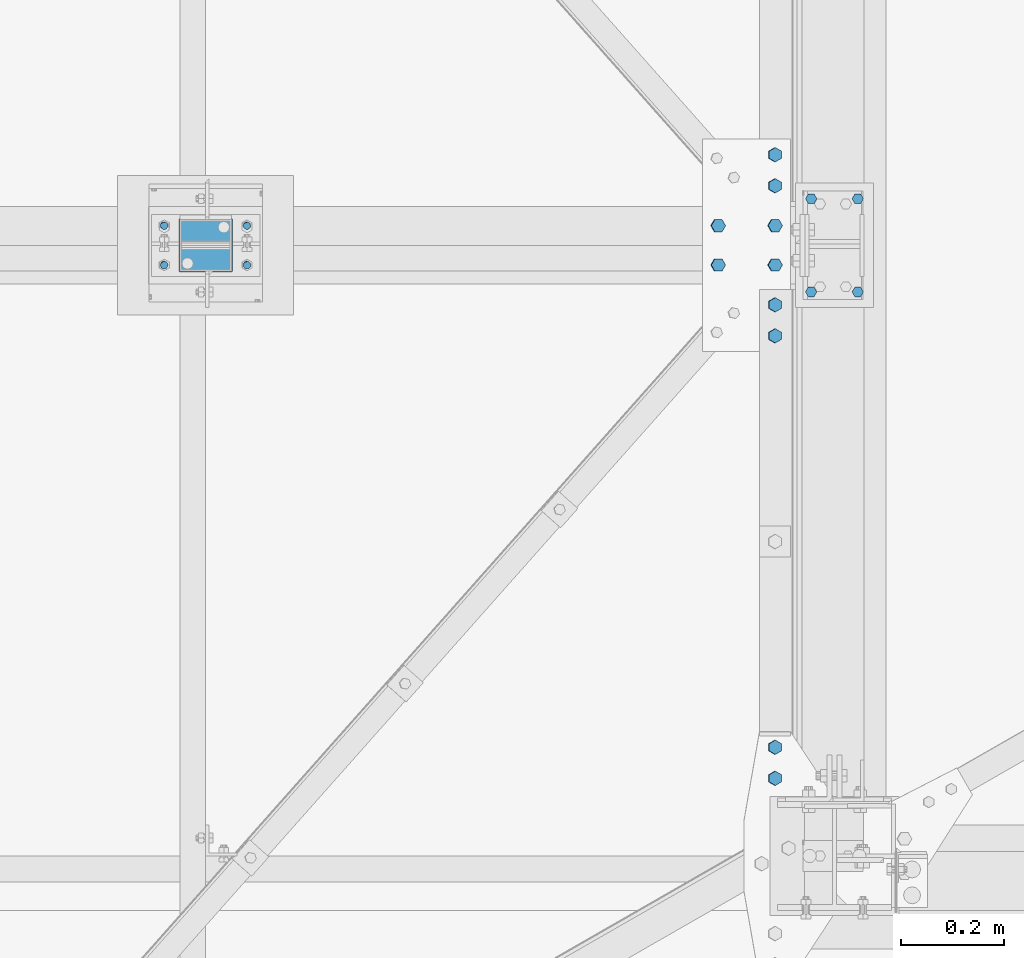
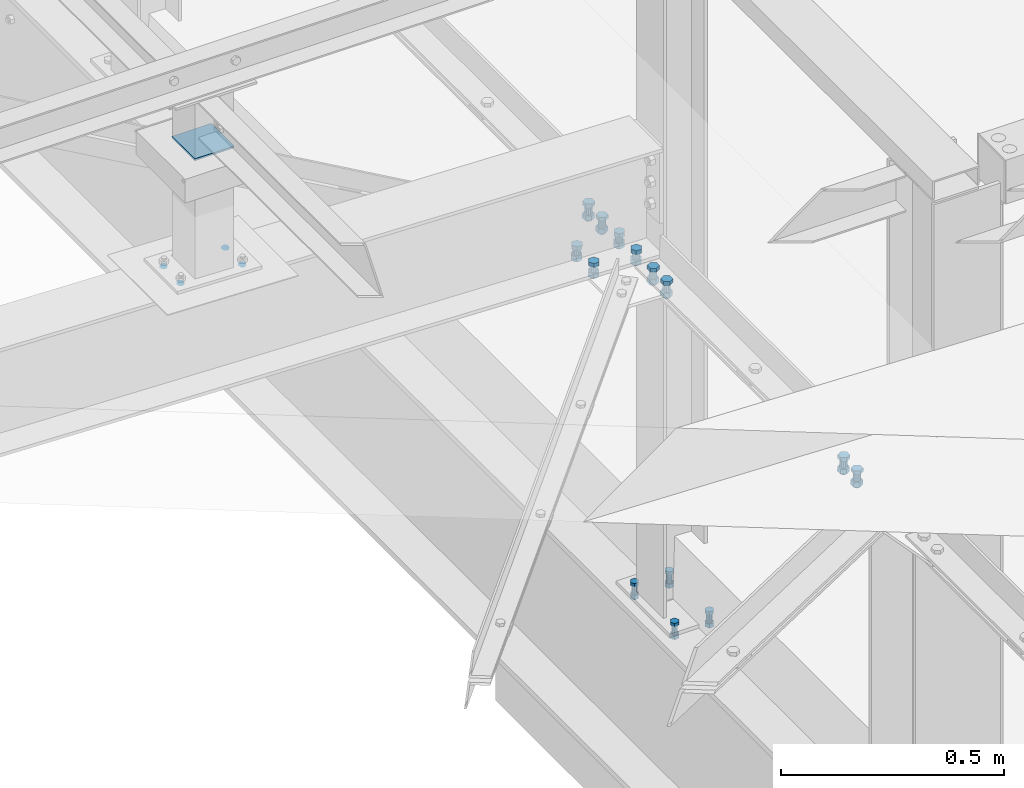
# One storey, part 358 of 3134: 7 mechanical fasteners, 6 elements without a shape of their own.
"""IFC2X3 building model written with IfcOpenShell, lengths in millimetres."""

from ifc_helpers import new_model, si_unit, frame, origin_with_axes, place, context, subcontext, project, spatial, faceted_brep, source, transform, mapped, material, type_object, element, aggregate, save


model = new_model("IFC2X3")

# Units and contexts
model_context = context("Model", 3, precision=1e-05, world=origin_with_axes())
body_context = subcontext(model_context, "Body", "Model", "MODEL_VIEW")
ifc_project = project(units=[si_unit("LENGTHUNIT", "METRE", prefix="MILLI"), si_unit("AREAUNIT", "SQUARE_METRE"), si_unit("VOLUMEUNIT", "CUBIC_METRE"), si_unit("MASSUNIT", "GRAM", prefix="KILO"), si_unit("TIMEUNIT", "SECOND"), si_unit("PLANEANGLEUNIT", "RADIAN"), si_unit("SOLIDANGLEUNIT", "STERADIAN"), si_unit("THERMODYNAMICTEMPERATUREUNIT", "DEGREE_CELSIUS"), si_unit("LUMINOUSINTENSITYUNIT", "LUMEN")], contexts=[model_context])

# Site, building, storey
site_placement = place(None, origin_with_axes())
site = spatial("IfcSite", under=ifc_project, at=site_placement, CompositionType="ELEMENT")
building_placement = place(site_placement, origin_with_axes())
building = spatial("IfcBuilding", under=site, at=building_placement, Name="Undefined", CompositionType="ELEMENT")
storey_placement = place(building_placement, origin_with_axes())
storey = spatial("IfcBuildingStorey", under=building, at=storey_placement, Name="Undefined", CompositionType="ELEMENT", Elevation=0.0)

# Assembly, mechanical fastener
assembly_1_placement = place(storey_placement, origin_with_axes())
assembly_1 = element("IfcElementAssembly", 1, at=assembly_1_placement, inside=storey, Name="300", AssemblyPlace="NOTDEFINED", PredefinedType="RIGID_FRAME")
ifc_material_1 = material(Name="8.8")
mechanical_fastener_type = type_object("IfcMechanicalFastenerType", Name="Bolt assembly")
shared_shape_1 = source(origin_with_axes(), body_context, "Body", "Brep", [
    faceted_brep([(13.856406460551, -23.1999997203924, 0.0), (6.92820323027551, -23.1999997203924, 12.0), (-6.92820323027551, -23.1999997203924, 12.0), (-13.856406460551, -23.1999997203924, 1.69692038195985e-15), (-6.92820323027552, -23.1999997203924, -12.0), (6.9282032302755, -23.1999997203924, -12.0), (6.9282032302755, -13.1999997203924, -12.0), (-6.92820323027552, -13.1999997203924, -12.0), (-13.856406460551, -13.1999997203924, 1.69692038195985e-15), (-6.92820323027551, -13.1999997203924, 12.0), (6.92820323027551, -13.1999997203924, 12.0), (13.856406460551, -13.1999997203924, 0.0), (8.0, -13.1999997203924, 0.0), (6.92820323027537, -13.1999997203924, 4.00000000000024), (3.99999999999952, -13.1999997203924, 6.92820323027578), (-8.29068785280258e-13, -13.1999997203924, 8.0), (-4.00000000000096, -13.1999997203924, 6.92820323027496), (-6.9282032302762, -13.1999997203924, 3.99999999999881), (-8.0, -13.1999997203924, -1.65813757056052e-12), (-6.92820323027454, -13.1999997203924, -4.00000000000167), (-3.99999999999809, -13.1999997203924, -6.92820323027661), (2.47832457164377e-12, -13.1999997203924, -8.0), (4.00000000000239, -13.1999997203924, -6.92820323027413), (6.92820323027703, -13.1999997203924, -3.99999999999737), (6.92820323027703, 21.8000002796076, -3.99999999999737), (4.00000000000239, 21.8000002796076, -6.92820323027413), (2.47832457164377e-12, 21.8000002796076, -8.0), (-3.99999999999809, 21.8000002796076, -6.92820323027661), (-6.92820323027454, 21.8000002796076, -4.00000000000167), (-8.0, 21.8000002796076, -1.65813757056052e-12), (-6.9282032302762, 21.8000002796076, 3.99999999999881), (-4.00000000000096, 21.8000002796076, 6.92820323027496), (-8.29068785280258e-13, 21.8000002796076, 8.0), (3.99999999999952, 21.8000002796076, 6.92820323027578), (6.92820323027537, 21.8000002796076, 4.00000000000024), (8.0, 21.8000002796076, 0.0), (13.856406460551, 3.99999999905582, 0.0), (6.92820323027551, 3.99999999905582, 12.0), (-6.92820323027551, 3.99999999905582, 12.0), (-13.856406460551, 3.99999999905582, 1.69692038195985e-15), (-6.92820323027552, 3.99999999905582, -12.0), (6.9282032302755, 3.99999999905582, -12.0), (6.9282032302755, 16.9999999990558, -12.0), (-6.92820323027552, 16.9999999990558, -12.0), (-13.856406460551, 16.9999999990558, 1.69692038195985e-15), (-6.92820323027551, 16.9999999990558, 12.0), (6.92820323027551, 16.9999999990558, 12.0), (13.856406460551, 16.9999999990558, 0.0)], [[[0, 1, 2, 3, 4, 5]], [[6, 7, 8, 9, 10, 11]], [[0, 11, 10, 1]], [[1, 10, 9, 2]], [[2, 9, 8, 3]], [[3, 8, 7, 4]], [[4, 7, 6, 5]], [[5, 6, 11, 0]], [[12, 13, 14, 15, 16, 17, 18, 19, 20, 21, 22, 23]], [[24, 25, 26, 27, 28, 29, 30, 31, 32, 33, 34, 35]], [[12, 35, 34, 13]], [[13, 34, 33, 14]], [[14, 33, 32, 15]], [[15, 32, 31, 16]], [[16, 31, 30, 17]], [[17, 30, 29, 18]], [[18, 29, 28, 19]], [[19, 28, 27, 20]], [[20, 27, 26, 21]], [[21, 26, 25, 22]], [[22, 25, 24, 23]], [[23, 24, 35, 12]], [[36, 37, 38, 39, 40, 41]], [[42, 43, 44, 45, 46, 47]], [[36, 47, 46, 37]], [[37, 46, 45, 38]], [[38, 45, 44, 39]], [[39, 44, 43, 40]], [[40, 43, 42, 41]], [[41, 42, 47, 36]]]),
    faceted_brep([(9.0, -4.10000000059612, 0.0), (7.79422863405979, -4.10000000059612, 4.50000000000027), (4.49999999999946, -4.10000000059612, 7.79422863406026), (-9.3270238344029e-13, -4.10000000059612, 9.0), (-4.50000000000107, -4.10000000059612, 7.79422863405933), (-7.79422863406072, -4.10000000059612, 4.49999999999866), (-9.0, -4.10000000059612, -1.86540476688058e-12), (-7.79422863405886, -4.10000000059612, -4.50000000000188), (-4.49999999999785, -4.10000000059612, -7.79422863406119), (2.78811514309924e-12, -4.10000000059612, -9.0), (4.50000000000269, -4.10000000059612, -7.7942286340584), (7.79422863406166, -4.10000000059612, -4.49999999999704), (7.79422863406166, 4.00000375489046, -4.49999999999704), (4.50000000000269, 4.00000375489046, -7.7942286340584), (2.78811514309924e-12, 4.00000375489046, -9.0), (-4.49999999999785, 4.00000375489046, -7.79422863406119), (-7.79422863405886, 4.00000375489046, -4.50000000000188), (-9.0, 4.00000375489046, -1.86540476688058e-12), (-7.79422863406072, 4.00000375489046, 4.49999999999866), (-4.50000000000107, 4.00000375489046, 7.79422863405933), (-9.3270238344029e-13, 4.00000375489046, 9.0), (4.49999999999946, 4.00000375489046, 7.79422863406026), (7.79422863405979, 4.00000375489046, 4.50000000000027), (9.0, 4.00000375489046, 0.0), (9.0, -13.0999997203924, 0.0), (7.79422863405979, -13.0999997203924, 4.50000000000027), (4.49999999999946, -13.0999997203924, 7.79422863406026), (-9.3270238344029e-13, -13.0999997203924, 9.0), (-4.50000000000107, -13.0999997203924, 7.79422863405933), (-7.79422863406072, -13.0999997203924, 4.49999999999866), (-9.0, -13.0999997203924, -1.86540476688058e-12), (-7.79422863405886, -13.0999997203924, -4.50000000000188), (-4.49999999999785, -13.0999997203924, -7.79422863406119), (2.78811514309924e-12, -13.0999997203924, -9.0), (4.50000000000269, -13.0999997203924, -7.7942286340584), (7.79422863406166, -13.0999997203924, -4.49999999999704), (7.79422863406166, -3.9, -4.49999999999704), (4.50000000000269, -3.9, -7.7942286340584), (2.78811514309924e-12, -3.9, -9.0), (-4.49999999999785, -3.9, -7.79422863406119), (-7.79422863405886, -3.9, -4.50000000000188), (-9.0, -3.9, -1.86540476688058e-12), (-7.79422863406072, -3.9, 4.49999999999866), (-4.50000000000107, -3.9, 7.79422863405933), (-9.3270238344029e-13, -3.9, 9.0), (4.49999999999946, -3.9, 7.79422863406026), (7.79422863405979, -3.9, 4.50000000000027), (9.0, -3.9, 0.0)], [[[0, 1, 2, 3, 4, 5, 6, 7, 8, 9, 10, 11]], [[12, 13, 14, 15, 16, 17, 18, 19, 20, 21, 22, 23]], [[0, 23, 22, 1]], [[1, 22, 21, 2]], [[2, 21, 20, 3]], [[3, 20, 19, 4]], [[4, 19, 18, 5]], [[5, 18, 17, 6]], [[6, 17, 16, 7]], [[7, 16, 15, 8]], [[8, 15, 14, 9]], [[9, 14, 13, 10]], [[10, 13, 12, 11]], [[11, 12, 23, 0]], [[24, 25, 26, 27, 28, 29, 30, 31, 32, 33, 34, 35]], [[36, 37, 38, 39, 40, 41, 42, 43, 44, 45, 46, 47]], [[24, 47, 46, 25]], [[25, 46, 45, 26]], [[26, 45, 44, 27]], [[27, 44, 43, 28]], [[28, 43, 42, 29]], [[29, 42, 41, 30]], [[30, 41, 40, 31]], [[31, 40, 39, 32]], [[32, 39, 38, 33]], [[33, 38, 37, 34]], [[34, 37, 36, 35]], [[35, 36, 47, 24]]]),
])
mechanical_fastener_1_placement = place(assembly_1_placement, frame((71700.0552172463, 14729.9999999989, 5010.20374993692), z_axis=(0.0, -1.0, 0.0), x_axis=(-0.999519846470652, 0.0, 0.0309851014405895)))
mechanical_fastener_1 = element("IfcMechanicalFastener", 2, at=mechanical_fastener_1_placement, type_object=mechanical_fastener_type, material=ifc_material_1, Name="Bolt assembly", NominalDiameter=16.0, NominalLength=35.0, context=body_context, shape_type="MappedRepresentation", body=[
    mapped(shared_shape_1, transform((0.0, 0.0, -38.0))),
    mapped(shared_shape_1, transform((110.000000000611, 4.58385329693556e-10, -38.0))),
    mapped(shared_shape_1, transform((0.0, 0.0, 38.0))),
    mapped(shared_shape_1, transform((110.000000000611, 4.58385329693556e-10, 38.0))),
])
aggregate(assembly_1, [mechanical_fastener_1])

assembly_2_placement = place(storey_placement, origin_with_axes())
assembly_2 = element("IfcElementAssembly", 3, at=assembly_2_placement, inside=storey, AssemblyPlace="NOTDEFINED", PredefinedType="RIGID_FRAME")
shared_shape_2 = source(origin_with_axes(), body_context, "Body", "Brep", [
    faceted_brep([(7.0, 13.0000253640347, 0.0), (6.06217782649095, 13.0000253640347, 3.50000000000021), (3.49999999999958, 13.0000253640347, 6.06217782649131), (-7.25435187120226e-13, 13.0000253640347, 7.0), (-3.50000000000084, 13.0000253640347, 6.06217782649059), (-6.06217782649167, 13.0000253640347, 3.49999999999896), (-7.0, 13.0000253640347, -1.45087037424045e-12), (-6.06217782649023, 13.0000253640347, -3.50000000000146), (-3.49999999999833, 13.0000253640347, -6.06217782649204), (2.1685340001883e-12, 13.0000253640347, -7.0), (3.50000000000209, 13.0000253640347, -6.06217782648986), (6.0621778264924, 13.0000253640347, -3.4999999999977), (6.0621778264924, 15.0999999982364, -3.4999999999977), (3.50000000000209, 15.0999999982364, -6.06217782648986), (2.1685340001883e-12, 15.0999999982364, -7.0), (-3.49999999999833, 15.0999999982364, -6.06217782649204), (-6.06217782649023, 15.0999999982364, -3.50000000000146), (-7.0, 15.0999999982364, -1.45087037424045e-12), (-6.06217782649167, 15.0999999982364, 3.49999999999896), (-3.50000000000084, 15.0999999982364, 6.06217782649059), (-7.25435187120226e-13, 15.0999999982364, 7.0), (3.49999999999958, 15.0999999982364, 6.06217782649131), (6.06217782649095, 15.0999999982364, 3.50000000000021), (7.0, 15.0999999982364, 0.0)], [[[0, 1, 2, 3, 4, 5, 6, 7, 8, 9, 10, 11]], [[12, 13, 14, 15, 16, 17, 18, 19, 20, 21, 22, 23]], [[0, 23, 22, 1]], [[1, 22, 21, 2]], [[2, 21, 20, 3]], [[3, 20, 19, 4]], [[4, 19, 18, 5]], [[5, 18, 17, 6]], [[6, 17, 16, 7]], [[7, 16, 15, 8]], [[8, 15, 14, 9]], [[9, 14, 13, 10]], [[10, 13, 12, 11]], [[11, 12, 23, 0]]]),
])
mechanical_fastener_2_placement = place(assembly_2_placement, frame((70599.3451187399, 14768.0, 5332.4572055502), z_axis=(-0.99951962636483, 0.0, 0.0309922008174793), x_axis=(0.0, -1.0, 0.0)))
mechanical_fastener_2 = element("IfcMechanicalFastener", 4, at=mechanical_fastener_2_placement, type_object=mechanical_fastener_type, material=ifc_material_1, Name="Bolt assembly", NominalDiameter=12.0, NominalLength=2.0, context=body_context, shape_type="MappedRepresentation", body=[
    mapped(shared_shape_2, transform((0.0, -5.32963895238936e-10, -79.9999999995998))),
    mapped(shared_shape_2, transform((76.0, -5.32963895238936e-10, -79.9999999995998))),
    mapped(shared_shape_2, transform((0.0, 5.3114490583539e-10, 79.9999999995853))),
    mapped(shared_shape_2, transform((76.0, 5.3114490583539e-10, 79.9999999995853))),
])
aggregate(assembly_2, [mechanical_fastener_2])

assembly_3_placement = place(storey_placement, origin_with_axes())
assembly_3 = element("IfcElementAssembly", 5, at=assembly_3_placement, inside=storey, AssemblyPlace="NOTDEFINED", PredefinedType="RIGID_FRAME")
ifc_material_2 = material(Name="6.8")
shared_shape_3 = source(origin_with_axes(), body_context, "Body", "Brep", [
    faceted_brep([(51.5, 1.36424205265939e-12, 50.0), (51.3858192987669, 1.36424205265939e-12, 50.5740251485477), (51.0606601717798, 1.36424205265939e-12, 51.0606601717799), (50.5740251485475, 1.36424205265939e-12, 51.385819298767), (-50.0000000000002, 1.36424205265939e-12, 51.5), (-50.7500000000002, 1.36424205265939e-12, 51.2990381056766), (-51.2990381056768, 1.36424205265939e-12, 50.7499999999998), (-51.5, 1.36424205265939e-12, 49.9999999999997), (-51.5, 1.36424205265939e-12, -50.0000000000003), (-51.2990381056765, 1.36424205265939e-12, -50.7500000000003), (-50.7499999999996, 1.36424205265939e-12, -51.2990381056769), (-49.9999999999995, 1.36424205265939e-12, -51.5), (50.0000000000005, 1.36424205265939e-12, -51.5), (50.7500000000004, 1.36424205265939e-12, -51.2990381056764), (51.2990381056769, 1.36424205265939e-12, -50.7499999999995), (51.5, 1.36424205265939e-12, -49.9999999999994), (51.5, 5.10000000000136, -49.9999999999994), (51.2990381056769, 5.10000000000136, -50.7499999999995), (50.7500000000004, 5.10000000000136, -51.2990381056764), (50.0000000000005, 5.10000000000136, -51.5), (-49.9999999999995, 5.10000000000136, -51.5), (-50.7499999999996, 5.10000000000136, -51.2990381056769), (-51.2990381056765, 5.10000000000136, -50.7500000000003), (-51.5, 5.10000000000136, -50.0000000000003), (-51.5, 5.10000000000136, 49.9999999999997), (-51.2990381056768, 5.10000000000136, 50.7499999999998), (-50.7500000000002, 5.10000000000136, 51.2990381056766), (-50.0000000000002, 5.10000000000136, 51.5), (50.5740251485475, 5.10000000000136, 51.385819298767), (51.0606601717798, 5.10000000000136, 51.0606601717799), (51.3858192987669, 5.10000000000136, 50.5740251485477), (51.5, 5.10000000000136, 50.0)], [[[0, 1, 2, 3, 4, 5, 6, 7, 8, 9, 10, 11, 12, 13, 14, 15]], [[16, 17, 18, 19, 20, 21, 22, 23, 24, 25, 26, 27, 28, 29, 30, 31]], [[0, 31, 30, 1]], [[1, 30, 29, 2]], [[2, 29, 28, 3]], [[3, 28, 27, 4]], [[4, 27, 26, 5]], [[5, 26, 25, 6]], [[6, 25, 24, 7]], [[7, 24, 23, 8]], [[8, 23, 22, 9]], [[9, 22, 21, 10]], [[10, 21, 20, 11]], [[11, 20, 19, 12]], [[12, 19, 18, 13]], [[13, 18, 17, 14]], [[14, 17, 16, 15]], [[15, 16, 31, 0]]]),
])
mechanical_fastener_3_placement = place(assembly_3_placement, frame((70600.0, 14730.0, 5687.16), z_axis=(0.0, -1.0, 0.0), x_axis=(-1.0, 0.0, 0.0)))
mechanical_fastener_3 = element("IfcMechanicalFastener", 6, at=mechanical_fastener_3_placement, type_object=mechanical_fastener_type, material=ifc_material_2, Name="Bolt assembly", NominalDiameter=10.0, NominalLength=5.0, context=body_context, shape_type="MappedRepresentation", body=[
    mapped(shared_shape_3, transform((0.0, 0.0, 0.0))),
])
aggregate(assembly_3, [mechanical_fastener_3])

assembly_4_placement = place(storey_placement, origin_with_axes())
assembly_4 = element("IfcElementAssembly", 7, at=assembly_4_placement, inside=storey, Name="IPE500", AssemblyPlace="NOTDEFINED", PredefinedType="RIGID_FRAME")
shared_shape_4 = source(origin_with_axes(), body_context, "Body", "Brep", [
    faceted_brep([(10.9696551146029, -18.0, 0.0), (5.48482755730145, -18.0, 9.5), (-5.48482755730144, -18.0, 9.5), (-10.9696551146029, -18.0, 1.34339530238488e-15), (-5.48482755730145, -18.0, -9.5), (5.48482755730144, -18.0, -9.50000000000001), (5.48482755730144, -10.0, -9.50000000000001), (-5.48482755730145, -10.0, -9.5), (-10.9696551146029, -10.0, 1.34339530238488e-15), (-5.48482755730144, -10.0, 9.5), (5.48482755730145, -10.0, 9.5), (10.9696551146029, -10.0, 0.0), (6.0, -10.0, 0.0), (5.19615242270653, -10.0, 3.00000000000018), (2.99999999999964, -10.0, 5.19615242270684), (-6.21801588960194e-13, -10.0, 6.0), (-3.00000000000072, -10.0, 5.19615242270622), (-5.19615242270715, -10.0, 2.9999999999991), (-6.0, -10.0, -1.24360317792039e-12), (-5.19615242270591, -10.0, -3.00000000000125), (-2.99999999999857, -10.0, -5.19615242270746), (1.85874342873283e-12, -10.0, -6.0), (3.00000000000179, -10.0, -5.1961524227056), (5.19615242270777, -10.0, -2.99999999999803), (5.19615242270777, 30.0, -2.99999999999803), (3.00000000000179, 30.0, -5.1961524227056), (1.85874342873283e-12, 30.0, -6.0), (-2.99999999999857, 30.0, -5.19615242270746), (-5.19615242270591, 30.0, -3.00000000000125), (-6.0, 30.0, -1.24360317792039e-12), (-5.19615242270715, 30.0, 2.9999999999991), (-3.00000000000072, 30.0, 5.19615242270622), (-6.21801588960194e-13, 30.0, 6.0), (2.99999999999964, 30.0, 5.19615242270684), (5.19615242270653, 30.0, 3.00000000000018), (6.0, 30.0, 0.0), (10.9696551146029, 16.0, 0.0), (5.48482755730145, 16.0, 9.5), (-5.48482755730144, 16.0, 9.5), (-10.9696551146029, 16.0, 1.34339530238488e-15), (-5.48482755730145, 16.0, -9.5), (5.48482755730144, 16.0, -9.50000000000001), (5.48482755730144, 26.0000003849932, -9.50000000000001), (-5.48482755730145, 26.0000003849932, -9.5), (-10.9696551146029, 26.0000003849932, 1.34339530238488e-15), (-5.48482755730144, 26.0000003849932, 9.5), (5.48482755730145, 26.0000003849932, 9.5), (10.9696551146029, 26.0000003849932, 0.0)], [[[0, 1, 2, 3, 4, 5]], [[6, 7, 8, 9, 10, 11]], [[0, 11, 10, 1]], [[1, 10, 9, 2]], [[2, 9, 8, 3]], [[3, 8, 7, 4]], [[4, 7, 6, 5]], [[5, 6, 11, 0]], [[12, 13, 14, 15, 16, 17, 18, 19, 20, 21, 22, 23]], [[24, 25, 26, 27, 28, 29, 30, 31, 32, 33, 34, 35]], [[12, 35, 34, 13]], [[13, 34, 33, 14]], [[14, 33, 32, 15]], [[15, 32, 31, 16]], [[16, 31, 30, 17]], [[17, 30, 29, 18]], [[18, 29, 28, 19]], [[19, 28, 27, 20]], [[20, 27, 26, 21]], [[21, 26, 25, 22]], [[22, 25, 24, 23]], [[23, 24, 35, 12]], [[36, 37, 38, 39, 40, 41]], [[42, 43, 44, 45, 46, 47]], [[36, 47, 46, 37]], [[37, 46, 45, 38]], [[38, 45, 44, 39]], [[39, 44, 43, 40]], [[40, 43, 42, 41]], [[41, 42, 47, 36]]]),
    faceted_brep([(7.0, -9.89999913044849, 0.0), (6.06217782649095, -9.89999913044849, 3.50000000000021), (3.49999999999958, -9.89999913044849, 6.06217782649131), (-7.25435187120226e-13, -9.89999913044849, 7.0), (-3.50000000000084, -9.89999913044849, 6.06217782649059), (-6.06217782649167, -9.89999913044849, 3.49999999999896), (-7.0, -9.89999913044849, -1.45087037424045e-12), (-6.06217782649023, -9.89999913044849, -3.50000000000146), (-3.49999999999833, -9.89999913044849, -6.06217782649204), (2.1685340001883e-12, -9.89999913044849, -7.0), (3.50000000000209, -9.89999913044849, -6.06217782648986), (6.0621778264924, -9.89999913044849, -3.4999999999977), (6.0621778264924, 0.0999999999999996, -3.4999999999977), (3.50000000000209, 0.0999999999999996, -6.06217782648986), (2.1685340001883e-12, 0.0999999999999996, -7.0), (-3.49999999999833, 0.0999999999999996, -6.06217782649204), (-6.06217782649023, 0.0999999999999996, -3.50000000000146), (-7.0, 0.0999999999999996, -1.45087037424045e-12), (-6.06217782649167, 0.0999999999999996, 3.49999999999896), (-3.50000000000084, 0.0999999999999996, 6.06217782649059), (-7.25435187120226e-13, 0.0999999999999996, 7.0), (3.49999999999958, 0.0999999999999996, 6.06217782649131), (6.06217782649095, 0.0999999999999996, 3.50000000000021), (7.0, 0.0999999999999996, 0.0), (7.0, -0.1, 0.0), (6.06217782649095, -0.1, 3.50000000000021), (3.49999999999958, -0.1, 6.06217782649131), (-7.25435187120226e-13, -0.1, 7.0), (-3.50000000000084, -0.1, 6.06217782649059), (-6.06217782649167, -0.1, 3.49999999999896), (-7.0, -0.1, -1.45087037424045e-12), (-6.06217782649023, -0.1, -3.50000000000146), (-3.49999999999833, -0.1, -6.06217782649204), (2.1685340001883e-12, -0.1, -7.0), (3.50000000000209, -0.1, -6.06217782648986), (6.0621778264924, -0.1, -3.4999999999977), (6.0621778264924, 16.0000003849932, -3.4999999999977), (3.50000000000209, 16.0000003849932, -6.06217782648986), (2.1685340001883e-12, 16.0000003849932, -7.0), (-3.49999999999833, 16.0000003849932, -6.06217782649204), (-6.06217782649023, 16.0000003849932, -3.50000000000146), (-7.0, 16.0000003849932, -1.45087037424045e-12), (-6.06217782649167, 16.0000003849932, 3.49999999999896), (-3.50000000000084, 16.0000003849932, 6.06217782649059), (-7.25435187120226e-13, 16.0000003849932, 7.0), (3.49999999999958, 16.0000003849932, 6.06217782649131), (6.06217782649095, 16.0000003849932, 3.50000000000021), (7.0, 16.0000003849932, 0.0)], [[[0, 1, 2, 3, 4, 5, 6, 7, 8, 9, 10, 11]], [[12, 13, 14, 15, 16, 17, 18, 19, 20, 21, 22, 23]], [[0, 23, 22, 1]], [[1, 22, 21, 2]], [[2, 21, 20, 3]], [[3, 20, 19, 4]], [[4, 19, 18, 5]], [[5, 18, 17, 6]], [[6, 17, 16, 7]], [[7, 16, 15, 8]], [[8, 15, 14, 9]], [[9, 14, 13, 10]], [[10, 13, 12, 11]], [[11, 12, 23, 0]], [[24, 25, 26, 27, 28, 29, 30, 31, 32, 33, 34, 35]], [[36, 37, 38, 39, 40, 41, 42, 43, 44, 45, 46, 47]], [[24, 47, 46, 25]], [[25, 46, 45, 26]], [[26, 45, 44, 27]], [[27, 44, 43, 28]], [[28, 43, 42, 29]], [[29, 42, 41, 30]], [[30, 41, 40, 31]], [[31, 40, 39, 32]], [[32, 39, 38, 33]], [[33, 38, 37, 34]], [[34, 37, 36, 35]], [[35, 36, 47, 24]]]),
])
mechanical_fastener_4_placement = place(assembly_4_placement, frame((71770.0, 14729.9999999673, 4000.00000038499), z_axis=(0.0, 1.0, 0.0), x_axis=(1.0, 0.0, 0.0)))
mechanical_fastener_4 = element("IfcMechanicalFastener", 8, at=mechanical_fastener_4_placement, type_object=mechanical_fastener_type, material=ifc_material_1, Name="Bolt assembly", NominalDiameter=12.0, NominalLength=40.0, context=body_context, shape_type="MappedRepresentation", body=[
    mapped(shared_shape_4, transform((0.0, 0.0, -90.0))),
    mapped(shared_shape_4, transform((90.0, 0.0, -90.0))),
    mapped(shared_shape_4, transform((0.0, 0.0, 90.0))),
    mapped(shared_shape_4, transform((90.0, 0.0, 90.0))),
])
aggregate(assembly_4, [mechanical_fastener_4])

assembly_5_placement = place(storey_placement, origin_with_axes())
assembly_5 = element("IfcElementAssembly", 9, at=assembly_5_placement, inside=storey, AssemblyPlace="NOTDEFINED", PredefinedType="RIGID_FRAME")
shared_shape_5 = source(origin_with_axes(), body_context, "Body", "Brep", [
    faceted_brep([(13.856406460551, -21.0000017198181, 0.0), (6.92820323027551, -21.0000017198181, 12.0), (-6.92820323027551, -21.0000017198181, 12.0), (-13.856406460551, -21.0000017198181, 1.69692038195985e-15), (-6.92820323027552, -21.0000017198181, -12.0), (6.9282032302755, -21.0000017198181, -12.0), (6.9282032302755, -11.0000017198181, -12.0), (-6.92820323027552, -11.0000017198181, -12.0), (-13.856406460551, -11.0000017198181, 1.69692038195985e-15), (-6.92820323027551, -11.0000017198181, 12.0), (6.92820323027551, -11.0000017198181, 12.0), (13.856406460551, -11.0000017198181, 0.0), (8.0, -11.0000017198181, 0.0), (6.92820323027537, -11.0000017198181, 4.00000000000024), (3.99999999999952, -11.0000017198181, 6.92820323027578), (-8.29068785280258e-13, -11.0000017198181, 8.0), (-4.00000000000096, -11.0000017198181, 6.92820323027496), (-6.9282032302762, -11.0000017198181, 3.99999999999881), (-8.0, -11.0000017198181, -1.65813757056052e-12), (-6.92820323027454, -11.0000017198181, -4.00000000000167), (-3.99999999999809, -11.0000017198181, -6.92820323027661), (2.47832457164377e-12, -11.0000017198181, -8.0), (4.00000000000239, -11.0000017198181, -6.92820323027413), (6.92820323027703, -11.0000017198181, -3.99999999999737), (6.92820323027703, 29.0, -3.99999999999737), (4.00000000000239, 29.0, -6.92820323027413), (2.47832457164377e-12, 29.0, -8.0), (-3.99999999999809, 29.0, -6.92820323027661), (-6.92820323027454, 29.0, -4.00000000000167), (-8.0, 29.0, -1.65813757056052e-12), (-6.9282032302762, 29.0, 3.99999999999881), (-4.00000000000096, 29.0, 6.92820323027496), (-8.29068785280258e-13, 29.0, 8.0), (3.99999999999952, 29.0, 6.92820323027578), (6.92820323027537, 29.0, 4.00000000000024), (8.0, 29.0, 0.0), (13.856406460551, 10.9979999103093, 0.0), (6.92820323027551, 10.9979999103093, 12.0), (-6.92820323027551, 10.9979999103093, 12.0), (-13.856406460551, 10.9979999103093, 1.69692038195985e-15), (-6.92820323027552, 10.9979999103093, -12.0), (6.9282032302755, 10.9979999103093, -12.0), (6.9282032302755, 23.9979999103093, -12.0), (-6.92820323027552, 23.9979999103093, -12.0), (-13.856406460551, 23.9979999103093, 1.69692038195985e-15), (-6.92820323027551, 23.9979999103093, 12.0), (6.92820323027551, 23.9979999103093, 12.0), (13.856406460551, 23.9979999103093, 0.0)], [[[0, 1, 2, 3, 4, 5]], [[6, 7, 8, 9, 10, 11]], [[0, 11, 10, 1]], [[1, 10, 9, 2]], [[2, 9, 8, 3]], [[3, 8, 7, 4]], [[4, 7, 6, 5]], [[5, 6, 11, 0]], [[12, 13, 14, 15, 16, 17, 18, 19, 20, 21, 22, 23]], [[24, 25, 26, 27, 28, 29, 30, 31, 32, 33, 34, 35]], [[12, 35, 34, 13]], [[13, 34, 33, 14]], [[14, 33, 32, 15]], [[15, 32, 31, 16]], [[16, 31, 30, 17]], [[17, 30, 29, 18]], [[18, 29, 28, 19]], [[19, 28, 27, 20]], [[20, 27, 26, 21]], [[21, 26, 25, 22]], [[22, 25, 24, 23]], [[23, 24, 35, 12]], [[36, 37, 38, 39, 40, 41]], [[42, 43, 44, 45, 46, 47]], [[36, 47, 46, 37]], [[37, 46, 45, 38]], [[38, 45, 44, 39]], [[39, 44, 43, 40]], [[40, 43, 42, 41]], [[41, 42, 47, 36]]]),
    faceted_brep([(9.0, -10.9000017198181, 0.0), (7.79422863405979, -10.9000017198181, 4.50000000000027), (4.49999999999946, -10.9000017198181, 7.79422863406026), (-9.3270238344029e-13, -10.9000017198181, 9.0), (-4.50000000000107, -10.9000017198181, 7.79422863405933), (-7.79422863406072, -10.9000017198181, 4.49999999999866), (-9.0, -10.9000017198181, -1.86540476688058e-12), (-7.79422863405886, -10.9000017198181, -4.50000000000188), (-4.49999999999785, -10.9000017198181, -7.79422863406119), (2.78811514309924e-12, -10.9000017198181, -9.0), (4.50000000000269, -10.9000017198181, -7.7942286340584), (7.79422863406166, -10.9000017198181, -4.49999999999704), (7.79422863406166, -3.9, -4.49999999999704), (4.50000000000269, -3.9, -7.7942286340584), (2.78811514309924e-12, -3.9, -9.0), (-4.49999999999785, -3.9, -7.79422863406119), (-7.79422863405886, -3.9, -4.50000000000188), (-9.0, -3.9, -1.86540476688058e-12), (-7.79422863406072, -3.9, 4.49999999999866), (-4.50000000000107, -3.9, 7.79422863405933), (-9.3270238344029e-13, -3.9, 9.0), (4.49999999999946, -3.9, 7.79422863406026), (7.79422863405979, -3.9, 4.50000000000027), (9.0, -3.9, 0.0), (9.0, 3.89799991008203, 0.0), (7.79422863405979, 3.89799991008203, 4.50000000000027), (4.49999999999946, 3.89799991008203, 7.79422863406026), (-9.3270238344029e-13, 3.89799991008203, 9.0), (-4.50000000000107, 3.89799991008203, 7.79422863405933), (-7.79422863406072, 3.89799991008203, 4.49999999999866), (-9.0, 3.89799991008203, -1.86540476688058e-12), (-7.79422863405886, 3.89799991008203, -4.50000000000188), (-4.49999999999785, 3.89799991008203, -7.79422863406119), (2.78811514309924e-12, 3.89799991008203, -9.0), (4.50000000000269, 3.89799991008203, -7.7942286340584), (7.79422863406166, 3.89799991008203, -4.49999999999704), (7.79422863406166, 10.9979999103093, -4.49999999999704), (4.50000000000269, 10.9979999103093, -7.7942286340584), (2.78811514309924e-12, 10.9979999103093, -9.0), (-4.49999999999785, 10.9979999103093, -7.79422863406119), (-7.79422863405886, 10.9979999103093, -4.50000000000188), (-9.0, 10.9979999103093, -1.86540476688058e-12), (-7.79422863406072, 10.9979999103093, 4.49999999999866), (-4.50000000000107, 10.9979999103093, 7.79422863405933), (-9.3270238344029e-13, 10.9979999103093, 9.0), (4.49999999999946, 10.9979999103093, 7.79422863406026), (7.79422863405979, 10.9979999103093, 4.50000000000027), (9.0, 10.9979999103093, 0.0), (9.0, -3.99999624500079, 0.0), (7.79422863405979, -3.99999624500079, 4.50000000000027), (4.49999999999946, -3.99999624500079, 7.79422863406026), (-9.3270238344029e-13, -3.99999624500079, 9.0), (-4.50000000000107, -3.99999624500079, 7.79422863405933), (-7.79422863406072, -3.99999624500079, 4.49999999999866), (-9.0, -3.99999624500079, -1.86540476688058e-12), (-7.79422863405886, -3.99999624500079, -4.50000000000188), (-4.49999999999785, -3.99999624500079, -7.79422863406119), (2.78811514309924e-12, -3.99999624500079, -9.0), (4.50000000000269, -3.99999624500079, -7.7942286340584), (7.79422863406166, -3.99999624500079, -4.49999999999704), (7.79422863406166, 4.00000375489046, -4.49999999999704), (4.50000000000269, 4.00000375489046, -7.7942286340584), (2.78811514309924e-12, 4.00000375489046, -9.0), (-4.49999999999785, 4.00000375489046, -7.79422863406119), (-7.79422863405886, 4.00000375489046, -4.50000000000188), (-9.0, 4.00000375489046, -1.86540476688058e-12), (-7.79422863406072, 4.00000375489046, 4.49999999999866), (-4.50000000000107, 4.00000375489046, 7.79422863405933), (-9.3270238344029e-13, 4.00000375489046, 9.0), (4.49999999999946, 4.00000375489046, 7.79422863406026), (7.79422863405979, 4.00000375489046, 4.50000000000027), (9.0, 4.00000375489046, 0.0)], [[[0, 1, 2, 3, 4, 5, 6, 7, 8, 9, 10, 11]], [[12, 13, 14, 15, 16, 17, 18, 19, 20, 21, 22, 23]], [[0, 23, 22, 1]], [[1, 22, 21, 2]], [[2, 21, 20, 3]], [[3, 20, 19, 4]], [[4, 19, 18, 5]], [[5, 18, 17, 6]], [[6, 17, 16, 7]], [[7, 16, 15, 8]], [[8, 15, 14, 9]], [[9, 14, 13, 10]], [[10, 13, 12, 11]], [[11, 12, 23, 0]], [[24, 25, 26, 27, 28, 29, 30, 31, 32, 33, 34, 35]], [[36, 37, 38, 39, 40, 41, 42, 43, 44, 45, 46, 47]], [[24, 47, 46, 25]], [[25, 46, 45, 26]], [[26, 45, 44, 27]], [[27, 44, 43, 28]], [[28, 43, 42, 29]], [[29, 42, 41, 30]], [[30, 41, 40, 31]], [[31, 40, 39, 32]], [[32, 39, 38, 33]], [[33, 38, 37, 34]], [[34, 37, 36, 35]], [[35, 36, 47, 24]], [[48, 49, 50, 51, 52, 53, 54, 55, 56, 57, 58, 59]], [[60, 61, 62, 63, 64, 65, 66, 67, 68, 69, 70, 71]], [[48, 71, 70, 49]], [[49, 70, 69, 50]], [[50, 69, 68, 51]], [[51, 68, 67, 52]], [[52, 67, 66, 53]], [[53, 66, 65, 54]], [[54, 65, 64, 55]], [[55, 64, 63, 56]], [[56, 63, 62, 57]], [[57, 62, 61, 58]], [[58, 61, 60, 59]], [[59, 60, 71, 48]]]),
])
mechanical_fastener_5_placement = place(assembly_5_placement, frame((71700.0552170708, 13699.9999999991, 5010.20374992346), z_axis=(-0.999519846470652, 0.0, 0.0309851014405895), x_axis=(0.0, 1.0, 0.0)))
mechanical_fastener_5 = element("IfcMechanicalFastener", 10, at=mechanical_fastener_5_placement, type_object=mechanical_fastener_type, material=ifc_material_1, Name="Bolt assembly", NominalDiameter=16.0, NominalLength=40.0, context=body_context, shape_type="MappedRepresentation", body=[
    mapped(shared_shape_5, transform((0.0, 0.0, 0.0))),
    mapped(shared_shape_5, transform((59.9999999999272, 0.0, 5.40239852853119e-10))),
])

assembly_6_placement = place(storey_placement, origin_with_axes())
assembly_6 = element("IfcElementAssembly", 11, at=assembly_6_placement, inside=storey, AssemblyPlace="NOTDEFINED", PredefinedType="RIGID_FRAME")
mechanical_fastener_6_placement = place(assembly_6_placement, frame((71700.0552171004, 14844.9999999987, 5010.20374994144), z_axis=(-0.999519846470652, 0.0, 0.0309851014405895), x_axis=(0.0, 1.0, 0.0)))
mechanical_fastener_6 = element("IfcMechanicalFastener", 12, at=mechanical_fastener_6_placement, type_object=mechanical_fastener_type, material=ifc_material_1, Name="Bolt assembly", NominalDiameter=16.0, NominalLength=40.0, context=body_context, shape_type="MappedRepresentation", body=[
    mapped(shared_shape_5, transform((0.0, 0.0, 0.0))),
    mapped(shared_shape_5, transform((59.9999999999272, 0.0, 5.40239852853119e-10))),
])
aggregate(assembly_6, [mechanical_fastener_6])

# Mechanical fastener
mechanical_fastener_7_placement = place(assembly_5_placement, frame((71700.0552170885, 14614.9999999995, 5010.20374994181), z_axis=(0.999519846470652, 0.0, -0.0309851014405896), x_axis=(0.0, -1.0, 0.0)))
mechanical_fastener_7 = element("IfcMechanicalFastener", 13, at=mechanical_fastener_7_placement, type_object=mechanical_fastener_type, material=ifc_material_1, Name="Bolt assembly", NominalDiameter=16.0, NominalLength=40.0, context=body_context, shape_type="MappedRepresentation", body=[
    mapped(shared_shape_5, transform((0.0, 0.0, 0.0))),
    mapped(shared_shape_5, transform((59.9999999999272, 0.0, 5.40239852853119e-10))),
])

aggregate(assembly_5, [mechanical_fastener_5, mechanical_fastener_7])

save(model, "model.ifc")
